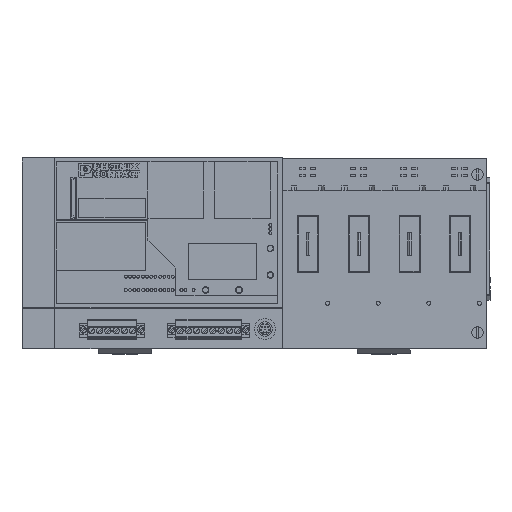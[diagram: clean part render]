
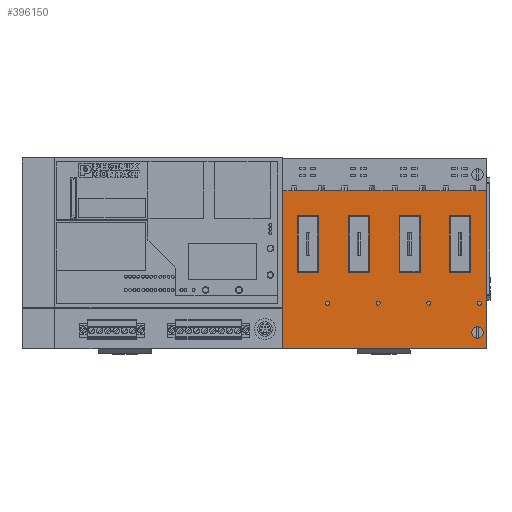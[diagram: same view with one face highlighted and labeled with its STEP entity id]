
A CAD part, top view. The second image highlights one B-rep face of the part: STEP entity #396150.
In plain terms, the highlighted planar face has unit normal (0, 0, 1) as drawn and (0, 1, 0) by its records, which use the part's own axes.
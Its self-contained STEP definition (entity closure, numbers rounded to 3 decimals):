
#393650=CARTESIAN_POINT('',(-29.659,39.2,63.928));
#393660=DIRECTION('',(0.,1.,-0.));
#393670=DIRECTION('',(-1.,0.,0.));
#393680=AXIS2_PLACEMENT_3D('',#393650,#393660,#393670);
#393690=PLANE('',#393680);
#393700=CARTESIAN_POINT('',(-34.4,39.2,54.25));
#393710=DIRECTION('',(0.,1.,0.));
#393720=DIRECTION('',(-1.,0.,0.));
#393730=AXIS2_PLACEMENT_3D('',#393700,#393710,#393720);
#393740=CIRCLE('',#393730,1.23);
#393750=CARTESIAN_POINT('',(-35.63,39.2,54.25));
#393760=VERTEX_POINT('',#393750);
#393770=CARTESIAN_POINT('',(-33.17,39.2,54.25));
#393780=VERTEX_POINT('',#393770);
#393790=EDGE_CURVE('',#393760,#393780,#393740,.T.);
#393800=ORIENTED_EDGE('',*,*,#393790,.F.);
#393810=EDGE_CURVE('',#393780,#393760,#393740,.T.);
#393820=ORIENTED_EDGE('',*,*,#393810,.F.);
#393830=EDGE_LOOP('',(#393820,#393800));
#393840=FACE_BOUND('',#393830,.T.);
#393850=CARTESIAN_POINT('',(-34.4,39.2,147.85));
#393860=DIRECTION('',(0.,1.,0.));
#393870=DIRECTION('',(-1.,0.,0.));
#393880=AXIS2_PLACEMENT_3D('',#393850,#393860,#393870);
#393890=CIRCLE('',#393880,1.23);
#393900=CARTESIAN_POINT('',(-35.63,39.2,147.85));
#393910=VERTEX_POINT('',#393900);
#393920=CARTESIAN_POINT('',(-33.17,39.2,147.85));
#393930=VERTEX_POINT('',#393920);
#393940=EDGE_CURVE('',#393910,#393930,#393890,.T.);
#393950=ORIENTED_EDGE('',*,*,#393940,.F.);
#393960=EDGE_CURVE('',#393930,#393910,#393890,.T.);
#393970=ORIENTED_EDGE('',*,*,#393960,.F.);
#393980=EDGE_LOOP('',(#393970,#393950));
#393990=FACE_BOUND('',#393980,.T.);
#394000=CARTESIAN_POINT('',(0.,39.2,129.45))
;
#394010=DIRECTION('',(-1.,0.,0.));
#394020=VECTOR('',#394010,1.);
#394030=LINE('',#394000,#394020);
#394040=CARTESIAN_POINT('',(19.5,39.2,129.45));
#394050=VERTEX_POINT('',#394040);
#394060=CARTESIAN_POINT('',(-15.5,39.2,129.45));
#394070=VERTEX_POINT('',#394060);
#394080=EDGE_CURVE('',#394050,#394070,#394030,.T.);
#394090=ORIENTED_EDGE('',*,*,#394080,.F.);
#394100=CARTESIAN_POINT('',(-15.5,39.2,-127.425));
#394110=DIRECTION('',(0.,0.,1.));
#394120=VECTOR('',#394110,1.);
#394130=LINE('',#394100,#394120);
#394140=CARTESIAN_POINT('',(-15.5,39.2,142.45));
#394150=VERTEX_POINT('',#394140);
#394160=EDGE_CURVE('',#394070,#394150,#394130,.T.);
#394170=ORIENTED_EDGE('',*,*,#394160,.F.);
#394180=CARTESIAN_POINT('',(0.,39.2,142.45))
;
#394190=DIRECTION('',(1.,0.,0.));
#394200=VECTOR('',#394190,1.);
#394210=LINE('',#394180,#394200);
#394220=CARTESIAN_POINT('',(19.5,39.2,142.45));
#394230=VERTEX_POINT('',#394220);
#394240=EDGE_CURVE('',#394150,#394230,#394210,.T.);
#394250=ORIENTED_EDGE('',*,*,#394240,.F.);
#394260=CARTESIAN_POINT('',(19.5,39.2,-127.425));
#394270=DIRECTION('',(0.,0.,-1.));
#394280=VECTOR('',#394270,1.);
#394290=LINE('',#394260,#394280);
#394300=EDGE_CURVE('',#394230,#394050,#394290,.T.);
#394310=ORIENTED_EDGE('',*,*,#394300,.F.);
#394320=EDGE_LOOP('',(#394310,#394250,#394170,#394090));
#394330=FACE_BOUND('',#394320,.T.);
#394340=CARTESIAN_POINT('',(0.,39.2,98.25))
;
#394350=DIRECTION('',(-1.,0.,0.));
#394360=VECTOR('',#394350,1.);
#394370=LINE('',#394340,#394360);
#394380=CARTESIAN_POINT('',(19.5,39.2,98.25));
#394390=VERTEX_POINT('',#394380);
#394400=CARTESIAN_POINT('',(-15.5,39.2,98.25));
#394410=VERTEX_POINT('',#394400);
#394420=EDGE_CURVE('',#394390,#394410,#394370,.T.);
#394430=ORIENTED_EDGE('',*,*,#394420,.F.);
#394440=CARTESIAN_POINT('',(-15.5,39.2,-127.425));
#394450=DIRECTION('',(0.,0.,1.));
#394460=VECTOR('',#394450,1.);
#394470=LINE('',#394440,#394460);
#394480=CARTESIAN_POINT('',(-15.5,39.2,111.25));
#394490=VERTEX_POINT('',#394480);
#394500=EDGE_CURVE('',#394410,#394490,#394470,.T.);
#394510=ORIENTED_EDGE('',*,*,#394500,.F.);
#394520=CARTESIAN_POINT('',(0.,39.2,111.25))
;
#394530=DIRECTION('',(1.,0.,0.));
#394540=VECTOR('',#394530,1.);
#394550=LINE('',#394520,#394540);
#394560=CARTESIAN_POINT('',(19.5,39.2,111.25));
#394570=VERTEX_POINT('',#394560);
#394580=EDGE_CURVE('',#394490,#394570,#394550,.T.);
#394590=ORIENTED_EDGE('',*,*,#394580,.F.);
#394600=CARTESIAN_POINT('',(19.5,39.2,-127.425));
#394610=DIRECTION('',(0.,0.,-1.));
#394620=VECTOR('',#394610,1.);
#394630=LINE('',#394600,#394620);
#394640=EDGE_CURVE('',#394570,#394390,#394630,.T.);
#394650=ORIENTED_EDGE('',*,*,#394640,.F.);
#394660=EDGE_LOOP('',(#394650,#394590,#394510,#394430));
#394670=FACE_BOUND('',#394660,.T.);
#394680=CARTESIAN_POINT('',(-15.5,39.2,-127.425));
#394690=DIRECTION('',(0.,0.,1.));
#394700=VECTOR('',#394690,1.);
#394710=LINE('',#394680,#394700);
#394720=CARTESIAN_POINT('',(-15.5,39.2,67.05));
#394730=VERTEX_POINT('',#394720);
#394740=CARTESIAN_POINT('',(-15.5,39.2,80.05));
#394750=VERTEX_POINT('',#394740);
#394760=EDGE_CURVE('',#394730,#394750,#394710,.T.);
#394770=ORIENTED_EDGE('',*,*,#394760,.F.);
#394780=CARTESIAN_POINT('',(0.,39.2,80.05))
;
#394790=DIRECTION('',(1.,0.,0.));
#394800=VECTOR('',#394790,1.);
#394810=LINE('',#394780,#394800);
#394820=CARTESIAN_POINT('',(19.5,39.2,80.05));
#394830=VERTEX_POINT('',#394820);
#394840=EDGE_CURVE('',#394750,#394830,#394810,.T.);
#394850=ORIENTED_EDGE('',*,*,#394840,.F.);
#394860=CARTESIAN_POINT('',(19.5,39.2,-127.425));
#394870=DIRECTION('',(0.,0.,-1.));
#394880=VECTOR('',#394870,1.);
#394890=LINE('',#394860,#394880);
#394900=CARTESIAN_POINT('',(19.5,39.2,67.05));
#394910=VERTEX_POINT('',#394900);
#394920=EDGE_CURVE('',#394830,#394910,#394890,.T.);
#394930=ORIENTED_EDGE('',*,*,#394920,.F.);
#394940=CARTESIAN_POINT('',(0.,39.2,67.05))
;
#394950=DIRECTION('',(-1.,0.,0.));
#394960=VECTOR('',#394950,1.);
#394970=LINE('',#394940,#394960);
#394980=EDGE_CURVE('',#394910,#394730,#394970,.T.);
#394990=ORIENTED_EDGE('',*,*,#394980,.F.);
#395000=EDGE_LOOP('',(#394990,#394930,#394850,#394770));
#395010=FACE_BOUND('',#395000,.T.);
#395020=CARTESIAN_POINT('',(19.5,39.2,-127.425));
#395030=DIRECTION('',(0.,0.,-1.));
#395040=VECTOR('',#395030,1.);
#395050=LINE('',#395020,#395040);
#395060=CARTESIAN_POINT('',(19.5,39.2,48.85));
#395070=VERTEX_POINT('',#395060);
#395080=CARTESIAN_POINT('',(19.5,39.2,35.85));
#395090=VERTEX_POINT('',#395080);
#395100=EDGE_CURVE('',#395070,#395090,#395050,.T.);
#395110=ORIENTED_EDGE('',*,*,#395100,.F.);
#395120=CARTESIAN_POINT('',(0.,39.2,35.85))
;
#395130=DIRECTION('',(-1.,0.,0.));
#395140=VECTOR('',#395130,1.);
#395150=LINE('',#395120,#395140);
#395160=CARTESIAN_POINT('',(-15.5,39.2,35.85));
#395170=VERTEX_POINT('',#395160);
#395180=EDGE_CURVE('',#395090,#395170,#395150,.T.);
#395190=ORIENTED_EDGE('',*,*,#395180,.F.);
#395200=CARTESIAN_POINT('',(-15.5,39.2,-127.425));
#395210=DIRECTION('',(0.,0.,1.));
#395220=VECTOR('',#395210,1.);
#395230=LINE('',#395200,#395220);
#395240=CARTESIAN_POINT('',(-15.5,39.2,48.85));
#395250=VERTEX_POINT('',#395240);
#395260=EDGE_CURVE('',#395170,#395250,#395230,.T.);
#395270=ORIENTED_EDGE('',*,*,#395260,.F.);
#395280=CARTESIAN_POINT('',(0.,39.2,48.85))
;
#395290=DIRECTION('',(1.,0.,0.));
#395300=VECTOR('',#395290,1.);
#395310=LINE('',#395280,#395300);
#395320=EDGE_CURVE('',#395250,#395070,#395310,.T.);
#395330=ORIENTED_EDGE('',*,*,#395320,.F.);
#395340=EDGE_LOOP('',(#395330,#395270,#395190,#395110));
#395350=FACE_BOUND('',#395340,.T.);
#395360=CARTESIAN_POINT('',(-52.45,39.2,146.65));
#395370=DIRECTION('',(0.,1.,0.));
#395380=DIRECTION('',(1.,0.,0.));
#395390=AXIS2_PLACEMENT_3D('',#395360,#395370,#395380);
#395400=CIRCLE('',#395390,1.9);
#395410=CARTESIAN_POINT('',(-50.55,39.2,146.65));
#395420=VERTEX_POINT('',#395410);
#395430=CARTESIAN_POINT('',(-54.35,39.2,146.65));
#395440=VERTEX_POINT('',#395430);
#395450=EDGE_CURVE('',#395420,#395440,#395400,.T.);
#395460=ORIENTED_EDGE('',*,*,#395450,.F.);
#395470=EDGE_CURVE('',#395440,#395420,#395400,.T.);
#395480=ORIENTED_EDGE('',*,*,#395470,.F.);
#395490=EDGE_LOOP('',(#395480,#395460));
#395500=FACE_BOUND('',#395490,.T.);
#395510=CARTESIAN_POINT('',(-34.4,39.2,85.45));
#395520=DIRECTION('',(0.,1.,0.));
#395530=DIRECTION('',(-1.,0.,0.));
#395540=AXIS2_PLACEMENT_3D('',#395510,#395520,#395530);
#395550=CIRCLE('',#395540,1.23);
#395560=CARTESIAN_POINT('',(-35.63,39.2,85.45));
#395570=VERTEX_POINT('',#395560);
#395580=CARTESIAN_POINT('',(-33.17,39.2,85.45));
#395590=VERTEX_POINT('',#395580);
#395600=EDGE_CURVE('',#395570,#395590,#395550,.T.);
#395610=ORIENTED_EDGE('',*,*,#395600,.F.);
#395620=EDGE_CURVE('',#395590,#395570,#395550,.T.);
#395630=ORIENTED_EDGE('',*,*,#395620,.F.);
#395640=EDGE_LOOP('',(#395630,#395610));
#395650=FACE_BOUND('',#395640,.T.);
#395660=CARTESIAN_POINT('',(-34.4,39.2,116.65));
#395670=DIRECTION('',(0.,1.,0.));
#395680=DIRECTION('',(-1.,0.,0.));
#395690=AXIS2_PLACEMENT_3D('',#395660,#395670,#395680);
#395700=CIRCLE('',#395690,1.23);
#395710=CARTESIAN_POINT('',(-35.63,39.2,116.65));
#395720=VERTEX_POINT('',#395710);
#395730=CARTESIAN_POINT('',(-33.17,39.2,116.65));
#395740=VERTEX_POINT('',#395730);
#395750=EDGE_CURVE('',#395720,#395740,#395700,.T.);
#395760=ORIENTED_EDGE('',*,*,#395750,.F.);
#395770=EDGE_CURVE('',#395740,#395720,#395700,.T.);
#395780=ORIENTED_EDGE('',*,*,#395770,.F.);
#395790=EDGE_LOOP('',(#395780,#395760));
#395800=FACE_BOUND('',#395790,.T.);
#395810=CARTESIAN_POINT('',(0.,39.2,152.35));
#395820=DIRECTION('',(1.,0.,0.));
#395830=VECTOR('',#395820,1.);
#395840=LINE('',#395810,#395830);
#395850=CARTESIAN_POINT('',(-62.6,39.2,152.35));
#395860=VERTEX_POINT('',#395850);
#395870=CARTESIAN_POINT('',(34.9,39.2,152.35));
#395880=VERTEX_POINT('',#395870);
#395890=EDGE_CURVE('',#395860,#395880,#395840,.T.);
#395900=ORIENTED_EDGE('',*,*,#395890,.T.);
#395910=CARTESIAN_POINT('',(-62.6,39.2,0.));
#395920=DIRECTION('',(0.,0.,1.));
#395930=VECTOR('',#395920,1.);
#395940=LINE('',#395910,#395930);
#395950=CARTESIAN_POINT('',(-62.6,39.2,26.35));
#395960=VERTEX_POINT('',#395950);
#395970=EDGE_CURVE('',#395960,#395860,#395940,.T.);
#395980=ORIENTED_EDGE('',*,*,#395970,.T.);
#395990=CARTESIAN_POINT('',(0.,39.2,26.35));
#396000=DIRECTION('',(-1.,0.,0.));
#396010=VECTOR('',#396000,1.);
#396020=LINE('',#395990,#396010);
#396030=CARTESIAN_POINT('',(34.9,39.2,26.35));
#396040=VERTEX_POINT('',#396030);
#396050=EDGE_CURVE('',#396040,#395960,#396020,.T.);
#396060=ORIENTED_EDGE('',*,*,#396050,.T.);
#396070=CARTESIAN_POINT('',(34.9,39.2,0.));
#396080=DIRECTION('',(0.,0.,1.));
#396090=VECTOR('',#396080,1.);
#396100=LINE('',#396070,#396090);
#396110=EDGE_CURVE('',#396040,#395880,#396100,.T.);
#396120=ORIENTED_EDGE('',*,*,#396110,.F.);
#396130=EDGE_LOOP('',(#396120,#396060,#395980,#395900));
#396140=FACE_OUTER_BOUND('',#396130,.T.);
#396150=ADVANCED_FACE('',(#393840,#393990,#394330,#394670,#395010,
#395350,#395500,#395650,#395800,#396140),#393690,.T.);
